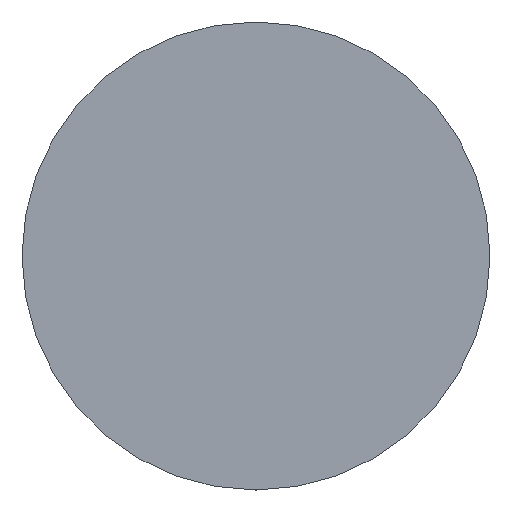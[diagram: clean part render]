
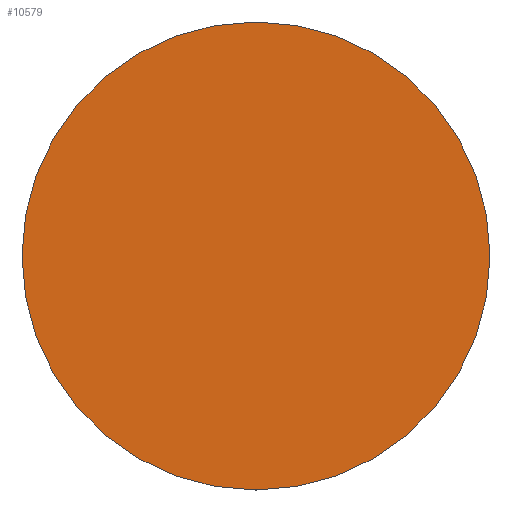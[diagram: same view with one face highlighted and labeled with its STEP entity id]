
A CAD part, top view. The second image highlights one B-rep face of the part: STEP entity #10579.
In plain terms, the highlighted planar face has unit normal (0, 0, 1).
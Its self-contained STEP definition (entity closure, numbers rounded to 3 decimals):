
#10504=CARTESIAN_POINT('',(0.,0.,20.));
#10505=DIRECTION('',(1.,0.,0.));
#10506=DIRECTION('',(0.,0.,1.));
#10507=AXIS2_PLACEMENT_3D('',#10504,#10506,#10505);
#10508=PLANE('',#10507);
#10509=CARTESIAN_POINT('',(-0.5,-350.,20.));
#10510=VERTEX_POINT('',#10509);
#10511=CARTESIAN_POINT('',(0.5,-350.,20.));
#10512=VERTEX_POINT('',#10511);
#10513=CARTESIAN_POINT('',(-0.5,-350.,20.));
#10514=DIRECTION('',(1.,0.,0.));
#10515=VECTOR('',#10514,1.);
#10516=LINE('',#10513,#10515);
#10517=EDGE_CURVE('',#10510,#10512,#10516,.T.);
#10518=ORIENTED_EDGE('E9',*,*,#10517,.T.);
#10519=CARTESIAN_POINT('',(350.,-0.5,20.));
#10520=VERTEX_POINT('',#10519);
#10521=CARTESIAN_POINT('',(0.5,-0.5,20.));
#10522=DIRECTION('',(0.,-1.,0.));
#10523=DIRECTION('',(0.,-0.,1.));
#10524=AXIS2_PLACEMENT_3D('',#10521,#10523,#10522);
#10525=CIRCLE('',#10524,349.5);
#10526=EDGE_CURVE('',#10512,#10520,#10525,.T.);
#10527=ORIENTED_EDGE('E10',*,*,#10526,.T.);
#10528=CARTESIAN_POINT('',(350.,0.5,20.));
#10529=VERTEX_POINT('',#10528);
#10530=CARTESIAN_POINT('',(350.,-0.5,20.));
#10531=DIRECTION('',(0.,1.,0.));
#10532=VECTOR('',#10531,1.);
#10533=LINE('',#10530,#10532);
#10534=EDGE_CURVE('',#10520,#10529,#10533,.T.);
#10535=ORIENTED_EDGE('E11',*,*,#10534,.T.);
#10536=CARTESIAN_POINT('',(0.5,350.,20.));
#10537=VERTEX_POINT('',#10536);
#10538=CARTESIAN_POINT('',(0.5,0.5,20.));
#10539=DIRECTION('',(1.,0.,0.));
#10540=DIRECTION('',(0.,0.,1.));
#10541=AXIS2_PLACEMENT_3D('',#10538,#10540,#10539);
#10542=CIRCLE('',#10541,349.5);
#10543=EDGE_CURVE('',#10529,#10537,#10542,.T.);
#10544=ORIENTED_EDGE('E12',*,*,#10543,.T.);
#10545=CARTESIAN_POINT('',(-0.5,350.,20.));
#10546=VERTEX_POINT('',#10545);
#10547=CARTESIAN_POINT('',(0.5,350.,20.));
#10548=DIRECTION('',(-1.,0.,0.));
#10549=VECTOR('',#10548,1.);
#10550=LINE('',#10547,#10549);
#10551=EDGE_CURVE('',#10537,#10546,#10550,.T.);
#10552=ORIENTED_EDGE('E13',*,*,#10551,.T.);
#10553=CARTESIAN_POINT('',(-350.,0.5,20.));
#10554=VERTEX_POINT('',#10553);
#10555=CARTESIAN_POINT('',(-0.5,0.5,20.));
#10556=DIRECTION('',(0.,1.,0.));
#10557=DIRECTION('',(0.,0.,1.));
#10558=AXIS2_PLACEMENT_3D('',#10555,#10557,#10556);
#10559=CIRCLE('',#10558,349.5);
#10560=EDGE_CURVE('',#10546,#10554,#10559,.T.);
#10561=ORIENTED_EDGE('E14',*,*,#10560,.T.);
#10562=CARTESIAN_POINT('',(-350.,-0.5,20.));
#10563=VERTEX_POINT('',#10562);
#10564=CARTESIAN_POINT('',(-350.,0.5,20.));
#10565=DIRECTION('',(0.,-1.,0.));
#10566=VECTOR('',#10565,1.);
#10567=LINE('',#10564,#10566);
#10568=EDGE_CURVE('',#10554,#10563,#10567,.T.);
#10569=ORIENTED_EDGE('E15',*,*,#10568,.T.);
#10570=CARTESIAN_POINT('',(-0.5,-0.5,20.));
#10571=DIRECTION('',(-1.,0.,0.));
#10572=DIRECTION('',(-0.,0.,1.));
#10573=AXIS2_PLACEMENT_3D('',#10570,#10572,#10571);
#10574=CIRCLE('',#10573,349.5);
#10575=EDGE_CURVE('',#10563,#10510,#10574,.T.);
#10576=ORIENTED_EDGE('E16',*,*,#10575,.T.);
#10577=EDGE_LOOP('',(#10518,#10527,#10535,#10544,#10552,#10561,#10569,#10576));
#10578=FACE_OUTER_BOUND('',#10577,.T.);
#10579=ADVANCED_FACE('F2',(#10578),#10508,.T.);
